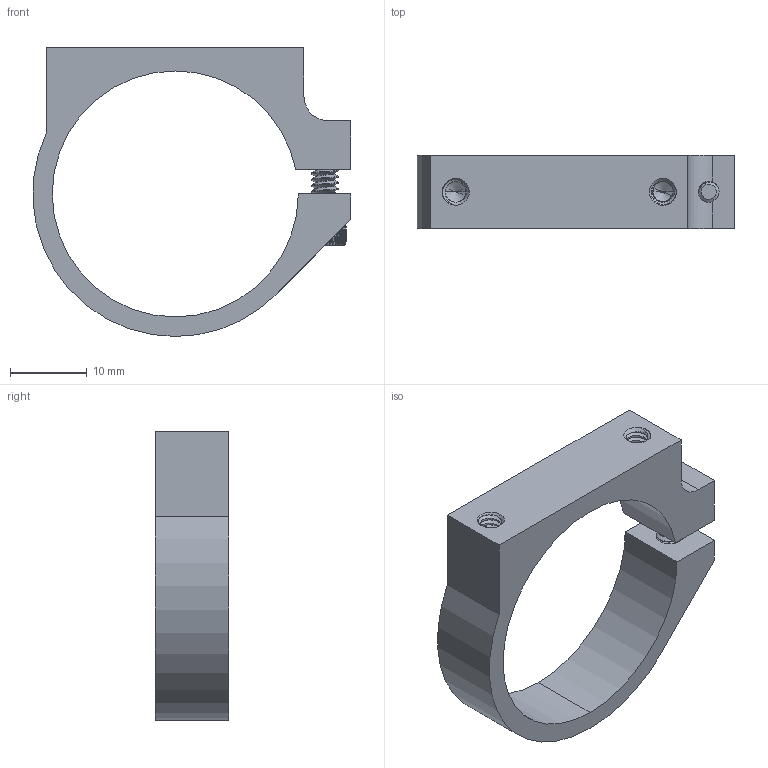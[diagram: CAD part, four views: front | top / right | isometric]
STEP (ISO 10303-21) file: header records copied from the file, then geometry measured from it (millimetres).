
FILE_DESCRIPTION (( 'STEP AP203' ), '1' );
FILE_NAME ('555176 assembly.STEP', '2017-07-03T16:02:14', ( '' ), ( '' ), 'SwSTEP 2.0', 'SolidWorks 2016', '' );
FILE_SCHEMA (( 'CONFIG_CONTROL_DESIGN' ));
Length unit declared in the file: inch
Products named in the file (3): 632114_90128A121; 555176; 555176 assembly
Assembly tree (2 placements, depth 2):
  555176 assembly
    555176
    632114_90128A121
Bounding box: 41.37 x 9.53 x 37.59 mm (x, y, z)
Volume: 4171 mm3; surface area: 3938.9 mm2
Topology: 2 solids, 2 shells, 1050 faces, 2592 edges, 1543 vertices
Faces by surface type: bspline 450, cylinder 411, plane 144, cone 26, torus 19
Entity records: 48909 total; most frequent: CARTESIAN_POINT 28046, ORIENTED_EDGE 5172, DIRECTION 3153, EDGE_CURVE 2586, VERTEX_POINT 1543, AXIS2_PLACEMENT_3D 1282, EDGE_LOOP 1057, FACE_OUTER_BOUND 1050
